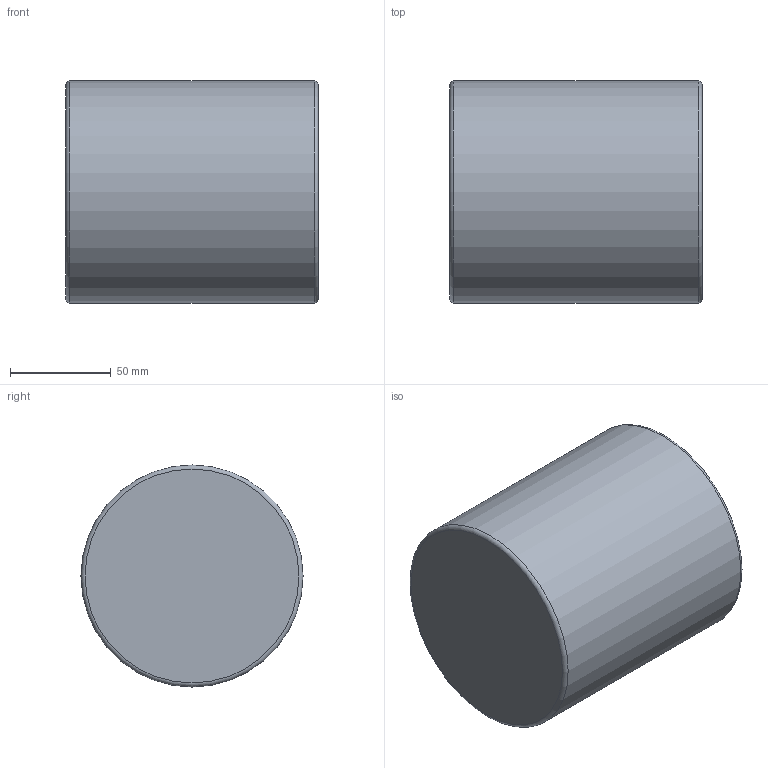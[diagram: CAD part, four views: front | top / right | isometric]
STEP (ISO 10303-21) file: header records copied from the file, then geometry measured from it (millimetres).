
FILE_DESCRIPTION(/* description */ (''),/* implementation_level */ '2;1');
FILE_NAME(/* name */ 'D:\TK Lighting\2021\Orion\Orion 3198.stp',/* time_stamp */ '2021-02-01T22:16:24+01:00',/* author */ ('Admin'),/* organization */ (''),/* preprocessor_version */ 'ST-DEVELOPER v16.5',/* originating_system */ 'Autodesk Inventor 2017',/* authorisation */ '');
FILE_SCHEMA (('AUTOMOTIVE_DESIGN { 1 0 10303 214 3 1 1 }'));
Length unit declared in the file: millimetre
Products named in the file (1): Orion 3198
Bounding box: 125 x 110 x 110 mm (x, y, z)
Volume: 91774 mm3; surface area: 131348.2 mm2
Topology: 1 solids, 4 shells, 21 faces, 29 edges, 17 vertices
Faces by surface type: plane 9, torus 4, cylinder 4, cone 4
Full cylindrical faces by diameter (mm): 60 x1, 64 x1, 106 x1, 110 x1
Entity records: 452 total; most frequent: DIRECTION 78, CARTESIAN_POINT 56, AXIS2_PLACEMENT_3D 39, EDGE_LOOP 36, ORIENTED_EDGE 36, STYLED_ITEM 22, FACE_OUTER_BOUND 21, ADVANCED_FACE 21
